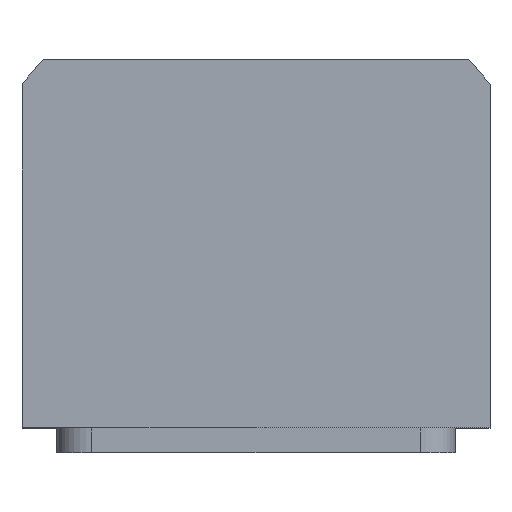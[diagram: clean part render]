
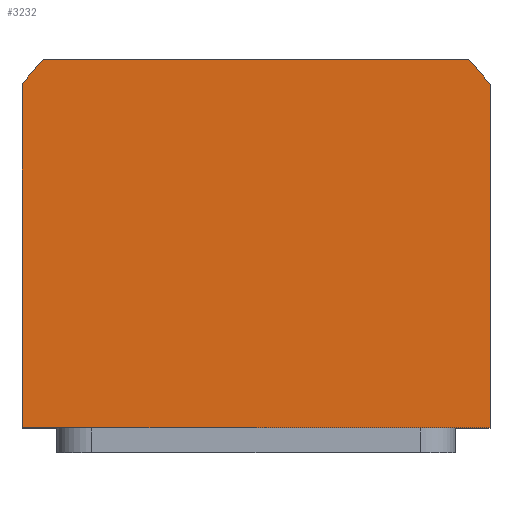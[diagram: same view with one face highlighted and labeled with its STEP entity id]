
A CAD part, top view. The second image highlights one B-rep face of the part: STEP entity #3232.
In plain terms, the highlighted planar face has unit normal (0, 0, 1).
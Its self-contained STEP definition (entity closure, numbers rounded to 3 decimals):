
#2848=FACE_OUTER_BOUND('',#4164,.T.);
#3232=ADVANCED_FACE('',(#2848),#3649,.T.);
#3649=PLANE('',#11163);
#4164=EDGE_LOOP('',(#6558,#6559,#6560,#6561,#6562,#6563));
#4651=LINE('',#13354,#5468);
#4682=LINE('',#14044,#5499);
#4703=LINE('',#14112,#5520);
#4706=LINE('',#14124,#5523);
#5468=VECTOR('',#11548,1.);
#5499=VECTOR('',#11683,1.);
#5520=VECTOR('',#11734,1.);
#5523=VECTOR('',#11747,1.);
#6558=ORIENTED_EDGE('',*,*,#9849,.T.);
#6559=ORIENTED_EDGE('',*,*,#9879,.T.);
#6560=ORIENTED_EDGE('',*,*,#9863,.T.);
#6561=ORIENTED_EDGE('',*,*,#9885,.T.);
#6562=ORIENTED_EDGE('',*,*,#9852,.T.);
#6563=ORIENTED_EDGE('',*,*,#9748,.T.);
#8853=VERTEX_POINT('',#13353);
#8854=VERTEX_POINT('',#13355);
#8946=VERTEX_POINT('',#14043);
#8947=VERTEX_POINT('',#14047);
#8955=VERTEX_POINT('',#14068);
#8958=VERTEX_POINT('',#14073);
#9748=EDGE_CURVE('',#8854,#8853,#4651,.T.);
#9849=EDGE_CURVE('',#8853,#8946,#4682,.T.);
#9852=EDGE_CURVE('',#8947,#8854,#11015,.T.);
#9863=EDGE_CURVE('',#8955,#8958,#11021,.T.);
#9879=EDGE_CURVE('',#8946,#8955,#4703,.T.);
#9885=EDGE_CURVE('',#8958,#8947,#4706,.T.);
#11015=CIRCLE('',#11138,58.5);
#11021=CIRCLE('',#11147,58.5);
#11138=AXIS2_PLACEMENT_3D('',#14050,#11689,#11690);
#11147=AXIS2_PLACEMENT_3D('',#14074,#11712,#11713);
#11163=AXIS2_PLACEMENT_3D('',#14149,#11771,#11772);
#11548=DIRECTION('',(0.,-1.,0.));
#11683=DIRECTION('',(1.,0.,0.));
#11689=DIRECTION('',(0.,0.,1.));
#11690=DIRECTION('',(1.,0.,0.));
#11712=DIRECTION('',(0.,0.,1.));
#11713=DIRECTION('',(1.,0.,0.));
#11734=DIRECTION('',(0.,1.,0.));
#11747=DIRECTION('',(-1.,0.,0.));
#11771=DIRECTION('',(0.,0.,1.));
#11772=DIRECTION('',(-1.,0.,0.));
#13353=CARTESIAN_POINT('',(-47.,-34.,42.5));
#13354=CARTESIAN_POINT('',(-47.,-34.,42.5));
#13355=CARTESIAN_POINT('',(-47.,34.832,42.5));
#14043=CARTESIAN_POINT('',(47.,-34.,42.5));
#14044=CARTESIAN_POINT('',(47.,-34.,42.5));
#14047=CARTESIAN_POINT('',(-42.688,40.,42.5));
#14050=CARTESIAN_POINT('',(0.,0.,42.5));
#14068=CARTESIAN_POINT('',(47.,34.832,42.5));
#14073=CARTESIAN_POINT('',(42.688,40.,42.5));
#14074=CARTESIAN_POINT('',(0.,0.,42.5));
#14112=CARTESIAN_POINT('',(47.,34.832,42.5));
#14124=CARTESIAN_POINT('',(-42.688,40.,42.5));
#14149=CARTESIAN_POINT('',(0.,0.,42.5));
